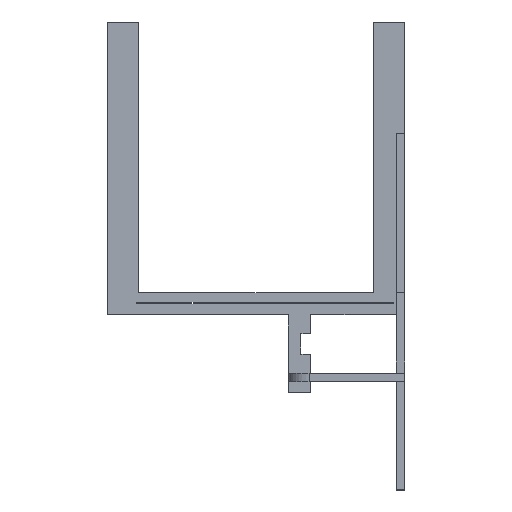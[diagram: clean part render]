
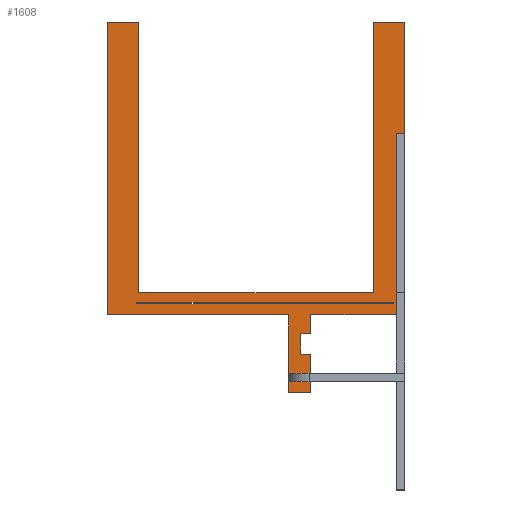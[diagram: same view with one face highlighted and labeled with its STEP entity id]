
A CAD part, top view. The second image highlights one B-rep face of the part: STEP entity #1608.
In plain terms, the highlighted planar face has unit normal (0, 0, 1).
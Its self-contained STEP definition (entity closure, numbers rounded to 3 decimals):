
#64=FACE_BOUND('',#270,.T.);
#160=FACE_OUTER_BOUND('',#269,.T.);
#269=EDGE_LOOP('',(#1371,#1372,#1373,#1374,#1375,#1376,#1377,#1378,#1379,
#1380,#1381,#1382,#1383,#1384,#1385,#1386,#1387,#1388,#1389,#1390,#1391,
#1392));
#270=EDGE_LOOP('',(#1393,#1394,#1395,#1396));
#388=LINE('',#2433,#578);
#390=LINE('',#2437,#580);
#392=LINE('',#2441,#582);
#394=LINE('',#2444,#584);
#396=LINE('',#2449,#586);
#398=LINE('',#2453,#588);
#400=LINE('',#2457,#590);
#402=LINE('',#2461,#592);
#404=LINE('',#2465,#594);
#406=LINE('',#2469,#596);
#408=LINE('',#2473,#598);
#410=LINE('',#2477,#600);
#412=LINE('',#2481,#602);
#414=LINE('',#2485,#604);
#416=LINE('',#2489,#606);
#418=LINE('',#2493,#608);
#420=LINE('',#2497,#610);
#422=LINE('',#2501,#612);
#424=LINE('',#2505,#614);
#426=LINE('',#2509,#616);
#428=LINE('',#2513,#618);
#430=LINE('',#2517,#620);
#432=LINE('',#2521,#622);
#434=LINE('',#2525,#624);
#436=LINE('',#2529,#626);
#438=LINE('',#2532,#628);
#578=VECTOR('',#1988,10.);
#580=VECTOR('',#1992,10.);
#582=VECTOR('',#1996,10.);
#584=VECTOR('',#2000,10.);
#586=VECTOR('',#2004,10.);
#588=VECTOR('',#2008,10.);
#590=VECTOR('',#2012,10.);
#592=VECTOR('',#2016,10.);
#594=VECTOR('',#2020,10.);
#596=VECTOR('',#2024,10.);
#598=VECTOR('',#2028,10.);
#600=VECTOR('',#2032,10.);
#602=VECTOR('',#2036,10.);
#604=VECTOR('',#2040,10.);
#606=VECTOR('',#2044,10.);
#608=VECTOR('',#2048,10.);
#610=VECTOR('',#2052,10.);
#612=VECTOR('',#2056,10.);
#614=VECTOR('',#2060,10.);
#616=VECTOR('',#2064,10.);
#618=VECTOR('',#2068,10.);
#620=VECTOR('',#2072,10.);
#622=VECTOR('',#2076,10.);
#624=VECTOR('',#2080,10.);
#626=VECTOR('',#2084,10.);
#628=VECTOR('',#2088,10.);
#761=VERTEX_POINT('',#2430);
#762=VERTEX_POINT('',#2432);
#763=VERTEX_POINT('',#2436);
#764=VERTEX_POINT('',#2440);
#765=VERTEX_POINT('',#2446);
#766=VERTEX_POINT('',#2448);
#767=VERTEX_POINT('',#2452);
#768=VERTEX_POINT('',#2456);
#769=VERTEX_POINT('',#2460);
#770=VERTEX_POINT('',#2464);
#771=VERTEX_POINT('',#2468);
#772=VERTEX_POINT('',#2472);
#773=VERTEX_POINT('',#2476);
#774=VERTEX_POINT('',#2480);
#775=VERTEX_POINT('',#2484);
#776=VERTEX_POINT('',#2488);
#777=VERTEX_POINT('',#2492);
#778=VERTEX_POINT('',#2496);
#779=VERTEX_POINT('',#2500);
#780=VERTEX_POINT('',#2504);
#781=VERTEX_POINT('',#2508);
#782=VERTEX_POINT('',#2512);
#783=VERTEX_POINT('',#2516);
#784=VERTEX_POINT('',#2520);
#785=VERTEX_POINT('',#2524);
#786=VERTEX_POINT('',#2528);
#944=EDGE_CURVE('',#762,#761,#388,.T.);
#946=EDGE_CURVE('',#763,#762,#390,.T.);
#948=EDGE_CURVE('',#764,#763,#392,.T.);
#950=EDGE_CURVE('',#761,#764,#394,.T.);
#952=EDGE_CURVE('',#766,#765,#396,.T.);
#954=EDGE_CURVE('',#767,#766,#398,.T.);
#956=EDGE_CURVE('',#768,#767,#400,.T.);
#958=EDGE_CURVE('',#769,#768,#402,.T.);
#960=EDGE_CURVE('',#770,#769,#404,.T.);
#962=EDGE_CURVE('',#771,#770,#406,.T.);
#964=EDGE_CURVE('',#772,#771,#408,.T.);
#966=EDGE_CURVE('',#773,#772,#410,.T.);
#968=EDGE_CURVE('',#774,#773,#412,.T.);
#970=EDGE_CURVE('',#775,#774,#414,.T.);
#972=EDGE_CURVE('',#776,#775,#416,.T.);
#974=EDGE_CURVE('',#777,#776,#418,.T.);
#976=EDGE_CURVE('',#778,#777,#420,.T.);
#978=EDGE_CURVE('',#779,#778,#422,.T.);
#980=EDGE_CURVE('',#780,#779,#424,.T.);
#982=EDGE_CURVE('',#781,#780,#426,.T.);
#984=EDGE_CURVE('',#782,#781,#428,.T.);
#986=EDGE_CURVE('',#783,#782,#430,.T.);
#988=EDGE_CURVE('',#784,#783,#432,.T.);
#990=EDGE_CURVE('',#785,#784,#434,.T.);
#992=EDGE_CURVE('',#786,#785,#436,.T.);
#994=EDGE_CURVE('',#765,#786,#438,.T.);
#1371=ORIENTED_EDGE('',*,*,#994,.T.);
#1372=ORIENTED_EDGE('',*,*,#992,.T.);
#1373=ORIENTED_EDGE('',*,*,#990,.T.);
#1374=ORIENTED_EDGE('',*,*,#988,.T.);
#1375=ORIENTED_EDGE('',*,*,#986,.T.);
#1376=ORIENTED_EDGE('',*,*,#984,.T.);
#1377=ORIENTED_EDGE('',*,*,#982,.T.);
#1378=ORIENTED_EDGE('',*,*,#980,.T.);
#1379=ORIENTED_EDGE('',*,*,#978,.T.);
#1380=ORIENTED_EDGE('',*,*,#976,.T.);
#1381=ORIENTED_EDGE('',*,*,#974,.T.);
#1382=ORIENTED_EDGE('',*,*,#972,.T.);
#1383=ORIENTED_EDGE('',*,*,#970,.T.);
#1384=ORIENTED_EDGE('',*,*,#968,.T.);
#1385=ORIENTED_EDGE('',*,*,#966,.T.);
#1386=ORIENTED_EDGE('',*,*,#964,.T.);
#1387=ORIENTED_EDGE('',*,*,#962,.T.);
#1388=ORIENTED_EDGE('',*,*,#960,.T.);
#1389=ORIENTED_EDGE('',*,*,#958,.T.);
#1390=ORIENTED_EDGE('',*,*,#956,.T.);
#1391=ORIENTED_EDGE('',*,*,#954,.T.);
#1392=ORIENTED_EDGE('',*,*,#952,.T.);
#1393=ORIENTED_EDGE('',*,*,#950,.T.);
#1394=ORIENTED_EDGE('',*,*,#948,.T.);
#1395=ORIENTED_EDGE('',*,*,#946,.T.);
#1396=ORIENTED_EDGE('',*,*,#944,.T.);
#1530=PLANE('',#1732);
#1608=ADVANCED_FACE('',(#160,#64),#1530,.T.);
#1732=AXIS2_PLACEMENT_3D('',#2533,#2089,#2090);
#1988=DIRECTION('',(1.,0.,0.));
#1992=DIRECTION('',(0.,1.,0.));
#1996=DIRECTION('',(-1.,0.,0.));
#2000=DIRECTION('',(0.,-1.,0.));
#2004=DIRECTION('',(0.,-1.,0.));
#2008=DIRECTION('',(-1.,0.,0.));
#2012=DIRECTION('',(0.,1.,0.));
#2016=DIRECTION('',(1.,0.,0.));
#2020=DIRECTION('',(0.,1.,0.));
#2024=DIRECTION('',(1.,0.,0.));
#2028=DIRECTION('',(0.,1.,0.));
#2032=DIRECTION('',(1.,0.,0.));
#2036=DIRECTION('',(0.,1.,0.));
#2040=DIRECTION('',(-1.,0.,0.));
#2044=DIRECTION('',(0.,1.,0.));
#2048=DIRECTION('',(1.,0.,0.));
#2052=DIRECTION('',(0.,1.,0.));
#2056=DIRECTION('',(-1.,0.,0.));
#2060=DIRECTION('',(0.,1.,0.));
#2064=DIRECTION('',(1.,0.,0.));
#2068=DIRECTION('',(0.,-1.,0.));
#2072=DIRECTION('',(1.,0.,0.));
#2076=DIRECTION('',(0.,-1.,0.));
#2080=DIRECTION('',(-1.,0.,0.));
#2084=DIRECTION('',(0.,1.,0.));
#2088=DIRECTION('',(-1.,0.,0.));
#2089=DIRECTION('center_axis',(0.,0.,1.));
#2090=DIRECTION('ref_axis',(1.,0.,0.));
#2430=CARTESIAN_POINT('',(-1.,28.,1.35));
#2432=CARTESIAN_POINT('',(-81.5,28.,1.35));
#2433=CARTESIAN_POINT('',(-1.,28.,1.35));
#2436=CARTESIAN_POINT('',(-81.5,27.5,1.35));
#2437=CARTESIAN_POINT('',(-81.5,28.,1.35));
#2440=CARTESIAN_POINT('',(-1.,27.5,1.35));
#2441=CARTESIAN_POINT('',(-81.5,27.5,1.35));
#2444=CARTESIAN_POINT('',(-1.,27.5,1.35));
#2446=CARTESIAN_POINT('',(-7.3,31.,1.35));
#2448=CARTESIAN_POINT('',(-7.3,116.,1.35));
#2449=CARTESIAN_POINT('',(-7.3,31.,1.35));
#2452=CARTESIAN_POINT('',(2.7,116.,1.35));
#2453=CARTESIAN_POINT('',(-7.3,116.,1.35));
#2456=CARTESIAN_POINT('',(2.7,26.318,1.35));
#2457=CARTESIAN_POINT('',(2.7,27.5,1.35));
#2460=CARTESIAN_POINT('',(0.,26.318,1.35));
#2461=CARTESIAN_POINT('',(2.7,26.318,1.35));
#2464=CARTESIAN_POINT('',(0.,24.,1.35));
#2465=CARTESIAN_POINT('',(0.,24.,1.35));
#2468=CARTESIAN_POINT('',(-26.9,24.,1.35));
#2469=CARTESIAN_POINT('',(-26.9,24.,1.35));
#2472=CARTESIAN_POINT('',(-26.9,18.,1.35));
#2473=CARTESIAN_POINT('',(-26.9,14.85,1.35));
#2476=CARTESIAN_POINT('',(-30.,18.,1.35));
#2477=CARTESIAN_POINT('',(-24.2,18.,1.35));
#2480=CARTESIAN_POINT('',(-30.,11.7,1.35));
#2481=CARTESIAN_POINT('',(-30.,11.7,1.35));
#2484=CARTESIAN_POINT('',(-26.9,11.7,1.35));
#2485=CARTESIAN_POINT('',(-26.85,11.7,1.35));
#2488=CARTESIAN_POINT('',(-26.9,5.7,1.35));
#2489=CARTESIAN_POINT('',(-26.9,5.7,1.35));
#2492=CARTESIAN_POINT('',(-30.4,5.7,1.35));
#2493=CARTESIAN_POINT('',(-26.9,5.7,1.35));
#2496=CARTESIAN_POINT('',(-30.4,3.,1.35));
#2497=CARTESIAN_POINT('',(-30.4,5.7,1.35));
#2500=CARTESIAN_POINT('',(-26.9,3.,1.35));
#2501=CARTESIAN_POINT('',(-33.9,3.,1.35));
#2504=CARTESIAN_POINT('',(-26.9,-0.5,1.35));
#2505=CARTESIAN_POINT('',(-26.9,3.,1.35));
#2508=CARTESIAN_POINT('',(-33.9,-0.5,1.35));
#2509=CARTESIAN_POINT('',(-26.9,-0.5,1.35));
#2512=CARTESIAN_POINT('',(-33.9,24.,1.35));
#2513=CARTESIAN_POINT('',(-33.9,31.,1.35));
#2516=CARTESIAN_POINT('',(-90.9,24.,1.35));
#2517=CARTESIAN_POINT('',(-90.9,24.,1.35));
#2520=CARTESIAN_POINT('',(-90.9,116.,1.35));
#2521=CARTESIAN_POINT('',(-90.9,116.,1.35));
#2524=CARTESIAN_POINT('',(-80.9,116.,1.35));
#2525=CARTESIAN_POINT('',(-80.9,116.,1.35));
#2528=CARTESIAN_POINT('',(-80.9,31.,1.35));
#2529=CARTESIAN_POINT('',(-80.9,31.,1.35));
#2532=CARTESIAN_POINT('',(2.7,31.,1.35));
#2533=CARTESIAN_POINT('Origin',(-44.1,57.75,1.35));
